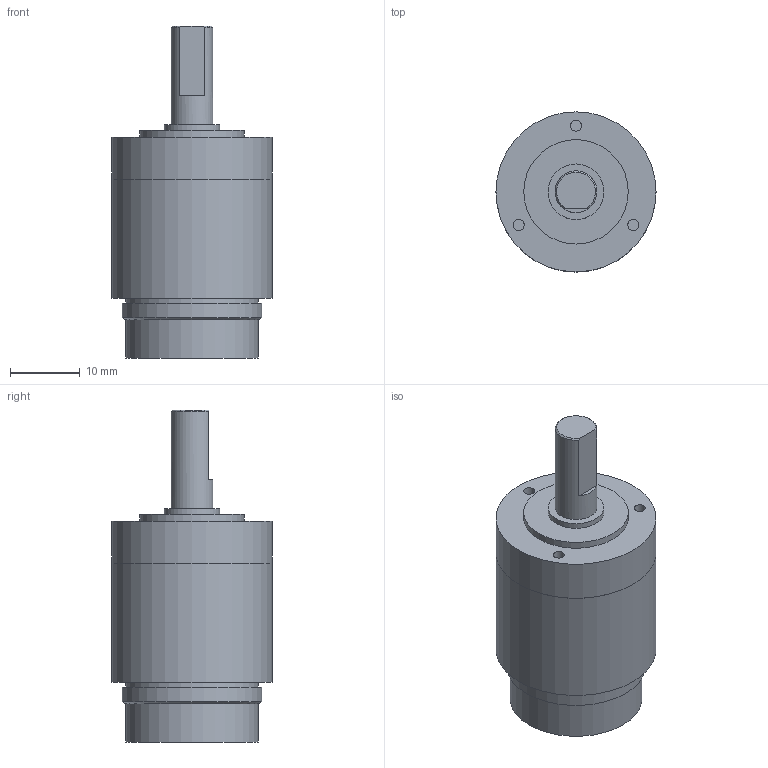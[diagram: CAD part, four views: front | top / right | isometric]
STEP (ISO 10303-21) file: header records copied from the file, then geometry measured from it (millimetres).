
FILE_DESCRIPTION(/* description */ (''),/* implementation_level */ '2;1');
FILE_NAME(/* name */ '23-1_3.stp',/* time_stamp */ '2016-09-06T15:03:24+02:00',/* author */ ('DR. FRITZ FAULHABER GmbH & Co. KG'),/* organization */ ('DR. FRITZ FAULHABER GmbH & Co. KG'),/* preprocessor_version */ 'ST-DEVELOPER v16',/* originating_system */ 'SIEMENS PLM Software NX 10.0',/* authorisation */ '');
FILE_SCHEMA (('AUTOMOTIVE_DESIGN { 1 0 10303 214 3 1 1 1 }'));
Length unit declared in the file: millimetre
Products named in the file (1): H00000161_A
Bounding box: 23 x 23 x 47.7 mm (x, y, z)
Volume: 12406.8 mm3; surface area: 3583.1 mm2
Topology: 1 solids, 1 shells, 34 faces, 72 edges, 59 vertices
Faces by surface type: plane 17, cylinder 15, cone 2
Full cylindrical faces by diameter (mm): 1.6 x3, 6 x1, 8 x1, 8.76 x1, 8.96 x1, 13.78 x1, 15 x1, 19 x2, 20 x1, 22.99 x1, 23 x2
Entity records: 889 total; most frequent: DIRECTION 165, CARTESIAN_POINT 131, AXIS2_PLACEMENT_3D 78, ORIENTED_EDGE 76, EDGE_LOOP 63, FACE_BOUND 55, CIRCLE 43, EDGE_CURVE 38
